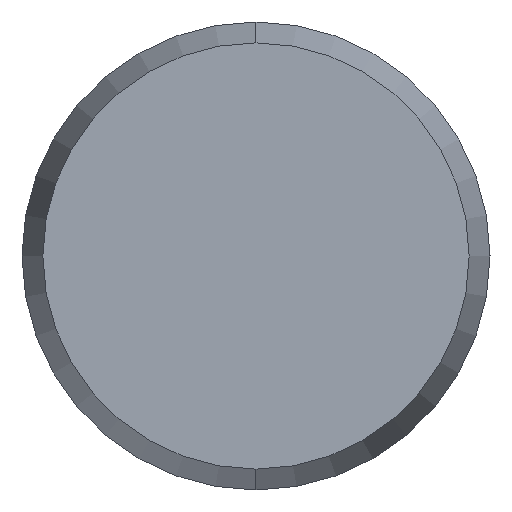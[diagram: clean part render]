
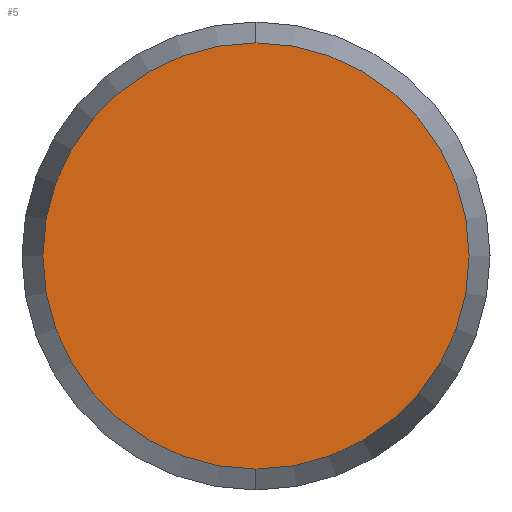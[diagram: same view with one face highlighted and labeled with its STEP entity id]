
A CAD part, left-side view. The second image highlights one B-rep face of the part: STEP entity #5.
In plain terms, the highlighted planar face has unit normal (-1, 0, 0).
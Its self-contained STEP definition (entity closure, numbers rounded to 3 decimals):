
#5 = ADVANCED_FACE ( 'NONE', ( #95 ), #89, .F. ) ;
#6 = ORIENTED_EDGE ( 'NONE', *, *, #8, .F. ) ;
#8 = EDGE_CURVE ( 'NONE', #35, #33, #88, .T. ) ;
#10 = ORIENTED_EDGE ( 'NONE', *, *, #48, .F. ) ;
#13 = EDGE_LOOP ( 'NONE', ( #10, #6 ) ) ;
#33 = VERTEX_POINT ( 'NONE', #181 ) ;
#35 = VERTEX_POINT ( 'NONE', #179 ) ;
#48 = EDGE_CURVE ( 'NONE', #33, #35, #134, .T. ) ;
#80 = DIRECTION ( 'NONE',  ( 0., 0., -1. ) ) ;
#81 = DIRECTION ( 'NONE',  ( 1., 0., 0. ) ) ;
#82 = CARTESIAN_POINT ( 'NONE',  ( -20., 0., 0. ) ) ;
#83 = AXIS2_PLACEMENT_3D ( 'NONE', #82, #81, #80 ) ;
#84 = DIRECTION ( 'NONE',  ( 0., 0., -1. ) ) ;
#85 = DIRECTION ( 'NONE',  ( 1., 0., 0. ) ) ;
#86 = CARTESIAN_POINT ( 'NONE',  ( -20., 0., 0. ) ) ;
#87 = AXIS2_PLACEMENT_3D ( 'NONE', #86, #85, #84 ) ;
#88 = CIRCLE ( 'NONE', #83, 1.366 ) ;
#89 = PLANE ( 'NONE',  #87 ) ;
#95 = FACE_OUTER_BOUND ( 'NONE', #13, .T. ) ;
#130 = DIRECTION ( 'NONE',  ( 0., 0., -1. ) ) ;
#131 = DIRECTION ( 'NONE',  ( 1., 0., 0. ) ) ;
#132 = CARTESIAN_POINT ( 'NONE',  ( -20., 0., 0. ) ) ;
#133 = AXIS2_PLACEMENT_3D ( 'NONE', #132, #131, #130 ) ;
#134 = CIRCLE ( 'NONE', #133, 1.366 ) ;
#179 = CARTESIAN_POINT ( 'NONE',  ( -20., 0., -1.366 ) ) ;
#181 = CARTESIAN_POINT ( 'NONE',  ( -20., 0., 1.366 ) ) ;
